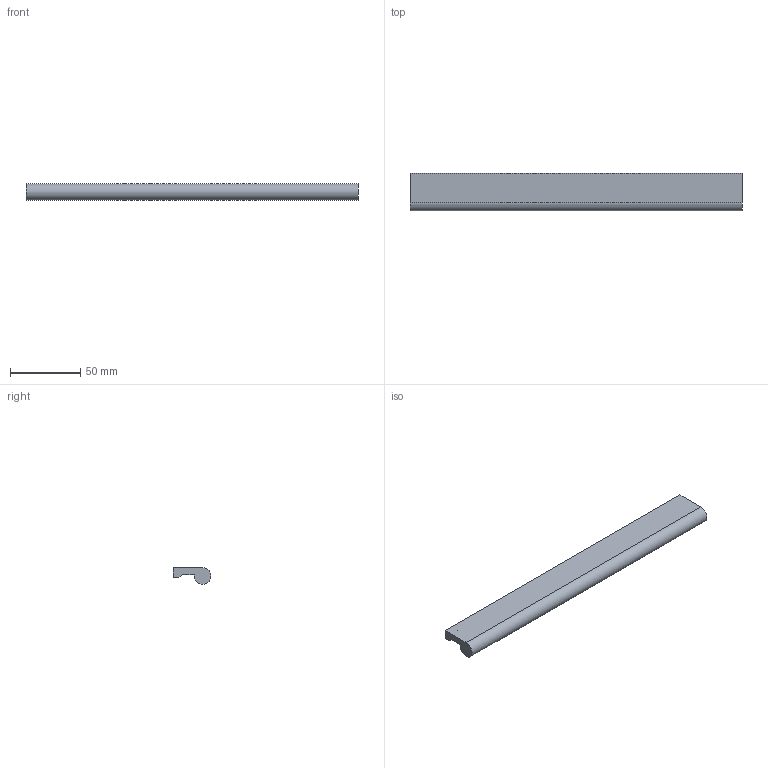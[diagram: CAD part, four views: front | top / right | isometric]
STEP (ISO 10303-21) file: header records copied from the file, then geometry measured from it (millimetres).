
FILE_DESCRIPTION( ( '' ), '1' );
FILE_NAME( 'C:/Documents and Settings/Nikhil/Desktop/Nik/Done/115109.stp', '2013-10-23T08:13:01', ( '' ), ( '' ), ' ', ' ', ' ' );
FILE_SCHEMA( ( 'automotive_design' ) );
Length unit declared in the file: millimetre
Products named in the file (1): 1
Bounding box: 236 x 27 x 12 mm (x, y, z)
Volume: 48565 mm3; surface area: 17830.7 mm2
Topology: 1 solids, 1 shells, 15 faces, 33 edges, 22 vertices
Faces by surface type: plane 9, cylinder 6
Entity records: 838 total; most frequent: DIRECTION 77, STYLED_ITEM 71, PRESENTATION_STYLE_ASSIGNMENT 71, CARTESIAN_POINT 71, COLOUR_RGB 71, ORIENTED_EDGE 66, EDGE_CURVE 33, CURVE_STYLE 33
